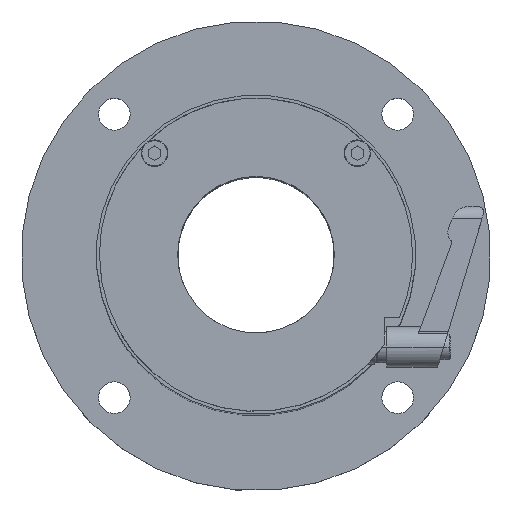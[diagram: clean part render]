
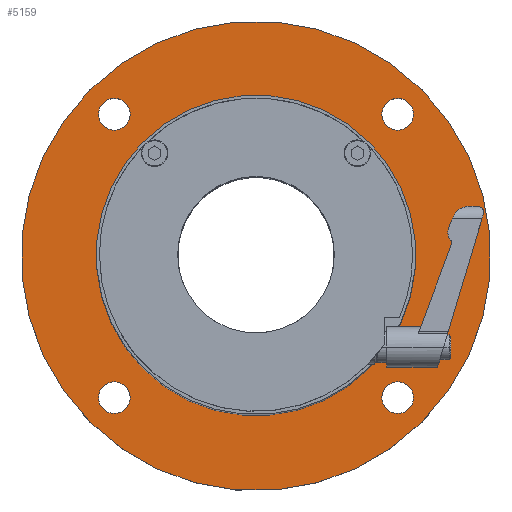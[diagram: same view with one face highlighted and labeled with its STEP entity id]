
A CAD part, top view. The second image highlights one B-rep face of the part: STEP entity #5159.
In plain terms, the highlighted planar face has unit normal (0, 0, 1).
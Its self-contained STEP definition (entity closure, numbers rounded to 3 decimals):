
#88 = VERTEX_POINT ( 'NONE', #763 ) ;
#123 = CARTESIAN_POINT ( 'NONE',  ( -54.623, -44.201, 127. ) ) ;
#199 = DIRECTION ( 'NONE',  ( 0., 0., -1. ) ) ;
#267 = DIRECTION ( 'NONE',  ( 0.707, 0.707, 0. ) ) ;
#280 = EDGE_CURVE ( 'NONE', #7779, #6453, #6057, .T. ) ;
#657 = AXIS2_PLACEMENT_3D ( 'NONE', #123, #1307, #3398 ) ;
#720 = AXIS2_PLACEMENT_3D ( 'NONE', #4915, #1458, #5525 ) ;
#763 = CARTESIAN_POINT ( 'NONE',  ( -51.05, -47.774, 127. ) ) ;
#767 = DIRECTION ( 'NONE',  ( 0., 0., -1. ) ) ;
#857 = DIRECTION ( 'NONE',  ( -0.707, -0.707, 0. ) ) ;
#891 = EDGE_CURVE ( 'NONE', #6453, #7779, #2248, .T. ) ;
#908 = DIRECTION ( 'NONE',  ( 0., 0., -1. ) ) ;
#1075 = DIRECTION ( 'NONE',  ( 0., 0., -1. ) ) ;
#1089 = FACE_BOUND ( 'NONE', #7349, .T. ) ;
#1154 = ORIENTED_EDGE ( 'NONE', *, *, #1852, .T. ) ;
#1157 = CIRCLE ( 'NONE', #7147, 5.053 ) ;
#1268 = ORIENTED_EDGE ( 'NONE', *, *, #8218, .T. ) ;
#1307 = DIRECTION ( 'NONE',  ( 0., 0., -1. ) ) ;
#1458 = DIRECTION ( 'NONE',  ( 0., 0., -1. ) ) ;
#1639 = CARTESIAN_POINT ( 'NONE',  ( -58.196, 42.736, 127. ) ) ;
#1661 = EDGE_LOOP ( 'NONE', ( #6684, #8318 ) ) ;
#1724 = CARTESIAN_POINT ( 'NONE',  ( 26.694, 37.116, 127. ) ) ;
#1765 = FACE_BOUND ( 'NONE', #2009, .T. ) ;
#1852 = EDGE_CURVE ( 'NONE', #7014, #5089, #5863, .T. ) ;
#1888 = CARTESIAN_POINT ( 'NONE',  ( 35.887, 46.309, 127. ) ) ;
#1982 = CARTESIAN_POINT ( 'NONE',  ( 39.46, 42.736, 127. ) ) ;
#1997 = VERTEX_POINT ( 'NONE', #8153 ) ;
#2009 = EDGE_LOOP ( 'NONE', ( #8032, #7521 ) ) ;
#2198 = CARTESIAN_POINT ( 'NONE',  ( 35.887, 46.309, 127. ) ) ;
#2248 = CIRCLE ( 'NONE', #7143, 5.053 ) ;
#2280 = DIRECTION ( 'NONE',  ( 0., 0., -1. ) ) ;
#2394 = AXIS2_PLACEMENT_3D ( 'NONE', #4956, #4397, #4271 ) ;
#2422 = ORIENTED_EDGE ( 'NONE', *, *, #8499, .T. ) ;
#2459 = CARTESIAN_POINT ( 'NONE',  ( -53.916, -43.494, 127. ) ) ;
#2482 = AXIS2_PLACEMENT_3D ( 'NONE', #2459, #5130, #7815 ) ;
#2787 = CARTESIAN_POINT ( 'NONE',  ( -58.196, -40.628, 127. ) ) ;
#2802 = CIRCLE ( 'NONE', #720, 5.053 ) ;
#3033 = FACE_BOUND ( 'NONE', #6989, .T. ) ;
#3121 = EDGE_CURVE ( 'NONE', #7602, #88, #4123, .T. ) ;
#3134 = CARTESIAN_POINT ( 'NONE',  ( 43.665, 54.087, 127. ) ) ;
#3164 = CIRCLE ( 'NONE', #7647, 5.053 ) ;
#3194 = CARTESIAN_POINT ( 'NONE',  ( -9.368, 1.054, 127. ) ) ;
#3250 = ORIENTED_EDGE ( 'NONE', *, *, #3121, .T. ) ;
#3275 = DIRECTION ( 'NONE',  ( 0., 0., -1. ) ) ;
#3287 = EDGE_LOOP ( 'NONE', ( #7571, #1268 ) ) ;
#3294 = CARTESIAN_POINT ( 'NONE',  ( -45.43, -35.009, 127. ) ) ;
#3320 = DIRECTION ( 'NONE',  ( 0.707, -0.707, 0. ) ) ;
#3398 = DIRECTION ( 'NONE',  ( -0.707, 0.707, 0. ) ) ;
#3480 = CIRCLE ( 'NONE', #6556, 75. ) ;
#3562 = CARTESIAN_POINT ( 'NONE',  ( -9.368, 1.054, 127. ) ) ;
#3599 = ORIENTED_EDGE ( 'NONE', *, *, #7044, .T. ) ;
#3668 = CIRCLE ( 'NONE', #6320, 5.053 ) ;
#3722 = EDGE_CURVE ( 'NONE', #4812, #6385, #3164, .T. ) ;
#3737 = FACE_BOUND ( 'NONE', #3287, .T. ) ;
#3765 = AXIS2_PLACEMENT_3D ( 'NONE', #3194, #767, #857 ) ;
#3837 = DIRECTION ( 'NONE',  ( 0., 0., -1. ) ) ;
#3842 = CARTESIAN_POINT ( 'NONE',  ( -54.623, 46.309, 127. ) ) ;
#4048 = CARTESIAN_POINT ( 'NONE',  ( 32.314, -47.774, 127. ) ) ;
#4110 = EDGE_LOOP ( 'NONE', ( #3250, #3599 ) ) ;
#4123 = CIRCLE ( 'NONE', #7489, 5.053 ) ;
#4189 = DIRECTION ( 'NONE',  ( -0.707, -0.707, 0. ) ) ;
#4254 = EDGE_CURVE ( 'NONE', #4897, #6971, #7567, .T. ) ;
#4271 = DIRECTION ( 'NONE',  ( -0.707, -0.707, 0. ) ) ;
#4396 = DIRECTION ( 'NONE',  ( -0.707, 0.707, 0. ) ) ;
#4397 = DIRECTION ( 'NONE',  ( 0., 0., -1. ) ) ;
#4453 = CARTESIAN_POINT ( 'NONE',  ( -51.05, 49.882, 127. ) ) ;
#4812 = VERTEX_POINT ( 'NONE', #6187 ) ;
#4897 = VERTEX_POINT ( 'NONE', #5456 ) ;
#4915 = CARTESIAN_POINT ( 'NONE',  ( 35.887, -44.201, 127. ) ) ;
#4921 = DIRECTION ( 'NONE',  ( 0., 0., -1. ) ) ;
#4956 = CARTESIAN_POINT ( 'NONE',  ( -9.368, 1.054, 127. ) ) ;
#5089 = VERTEX_POINT ( 'NONE', #1724 ) ;
#5130 = DIRECTION ( 'NONE',  ( 0., 0., 1. ) ) ;
#5159 = ADVANCED_FACE ( 'NONE', ( #8492, #1089, #3737, #1765, #6457, #3033 ), #6366, .T. ) ;
#5456 = CARTESIAN_POINT ( 'NONE',  ( -62.401, -51.979, 127. ) ) ;
#5466 = EDGE_CURVE ( 'NONE', #6971, #4897, #3480, .T. ) ;
#5525 = DIRECTION ( 'NONE',  ( -0.707, -0.707, 0. ) ) ;
#5740 = CARTESIAN_POINT ( 'NONE',  ( 35.887, -44.201, 127. ) ) ;
#5761 = AXIS2_PLACEMENT_3D ( 'NONE', #3842, #2280, #267 ) ;
#5863 = CIRCLE ( 'NONE', #2394, 51. ) ;
#5942 = CARTESIAN_POINT ( 'NONE',  ( -54.623, 46.309, 127. ) ) ;
#5988 = DIRECTION ( 'NONE',  ( 0.707, 0.707, 0. ) ) ;
#6057 = CIRCLE ( 'NONE', #5761, 5.053 ) ;
#6102 = CIRCLE ( 'NONE', #657, 5.053 ) ;
#6187 = CARTESIAN_POINT ( 'NONE',  ( 39.46, -40.628, 127. ) ) ;
#6320 = AXIS2_PLACEMENT_3D ( 'NONE', #2198, #199, #8108 ) ;
#6366 = PLANE ( 'NONE',  #2482 ) ;
#6385 = VERTEX_POINT ( 'NONE', #4048 ) ;
#6392 = DIRECTION ( 'NONE',  ( -0.707, -0.707, 0. ) ) ;
#6407 = ORIENTED_EDGE ( 'NONE', *, *, #280, .T. ) ;
#6437 = CIRCLE ( 'NONE', #7585, 51. ) ;
#6453 = VERTEX_POINT ( 'NONE', #1639 ) ;
#6457 = FACE_BOUND ( 'NONE', #4110, .T. ) ;
#6556 = AXIS2_PLACEMENT_3D ( 'NONE', #3562, #4921, #4189 ) ;
#6654 = VERTEX_POINT ( 'NONE', #1982 ) ;
#6684 = ORIENTED_EDGE ( 'NONE', *, *, #4254, .F. ) ;
#6971 = VERTEX_POINT ( 'NONE', #3134 ) ;
#6989 = EDGE_LOOP ( 'NONE', ( #1154, #2422 ) ) ;
#7014 = VERTEX_POINT ( 'NONE', #3294 ) ;
#7022 = CARTESIAN_POINT ( 'NONE',  ( -54.623, -44.201, 127. ) ) ;
#7044 = EDGE_CURVE ( 'NONE', #88, #7602, #6102, .T. ) ;
#7051 = DIRECTION ( 'NONE',  ( -0.707, -0.707, 0. ) ) ;
#7056 = CARTESIAN_POINT ( 'NONE',  ( -9.368, 1.054, 127. ) ) ;
#7143 = AXIS2_PLACEMENT_3D ( 'NONE', #5942, #8579, #5988 ) ;
#7147 = AXIS2_PLACEMENT_3D ( 'NONE', #1888, #3275, #3320 ) ;
#7349 = EDGE_LOOP ( 'NONE', ( #6407, #7902 ) ) ;
#7489 = AXIS2_PLACEMENT_3D ( 'NONE', #7022, #908, #4396 ) ;
#7521 = ORIENTED_EDGE ( 'NONE', *, *, #3722, .T. ) ;
#7567 = CIRCLE ( 'NONE', #3765, 75. ) ;
#7571 = ORIENTED_EDGE ( 'NONE', *, *, #8277, .T. ) ;
#7585 = AXIS2_PLACEMENT_3D ( 'NONE', #7056, #1075, #6392 ) ;
#7602 = VERTEX_POINT ( 'NONE', #2787 ) ;
#7647 = AXIS2_PLACEMENT_3D ( 'NONE', #5740, #3837, #7051 ) ;
#7779 = VERTEX_POINT ( 'NONE', #4453 ) ;
#7815 = DIRECTION ( 'NONE',  ( -0.707, 0.707, 0. ) ) ;
#7902 = ORIENTED_EDGE ( 'NONE', *, *, #891, .T. ) ;
#8032 = ORIENTED_EDGE ( 'NONE', *, *, #8252, .T. ) ;
#8108 = DIRECTION ( 'NONE',  ( 0.707, -0.707, 0. ) ) ;
#8153 = CARTESIAN_POINT ( 'NONE',  ( 32.314, 49.882, 127. ) ) ;
#8218 = EDGE_CURVE ( 'NONE', #1997, #6654, #1157, .T. ) ;
#8252 = EDGE_CURVE ( 'NONE', #6385, #4812, #2802, .T. ) ;
#8277 = EDGE_CURVE ( 'NONE', #6654, #1997, #3668, .T. ) ;
#8318 = ORIENTED_EDGE ( 'NONE', *, *, #5466, .F. ) ;
#8492 = FACE_OUTER_BOUND ( 'NONE', #1661, .T. ) ;
#8499 = EDGE_CURVE ( 'NONE', #5089, #7014, #6437, .T. ) ;
#8579 = DIRECTION ( 'NONE',  ( 0., 0., -1. ) ) ;
